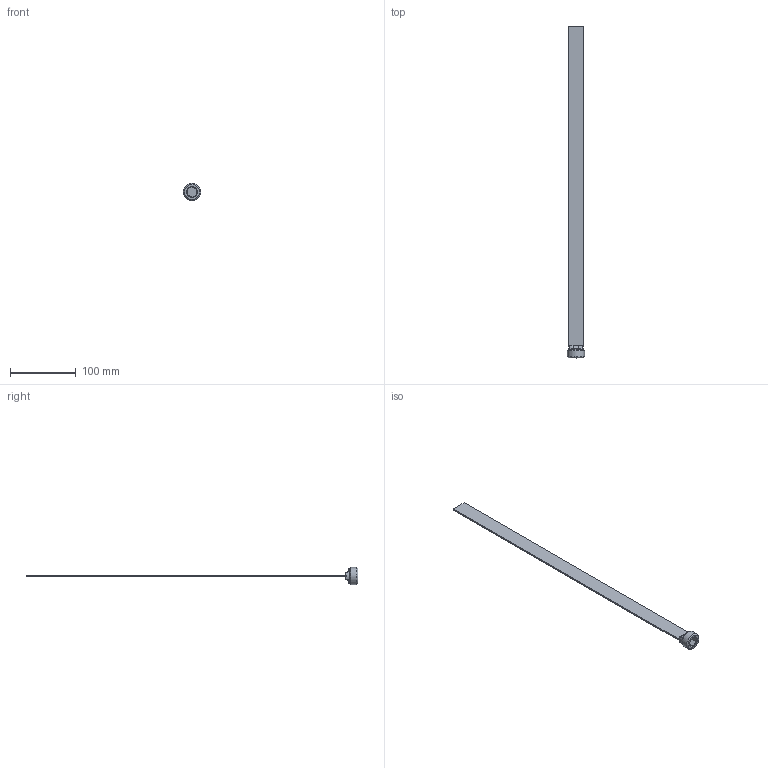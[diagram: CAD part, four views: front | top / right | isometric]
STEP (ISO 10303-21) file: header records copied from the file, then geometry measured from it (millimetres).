
FILE_DESCRIPTION(/* description */ (''),/* implementation_level */ '2;1');
FILE_NAME(/* name */ 'C:/Users/drich/Desktop/SB34X20BSP v1.step',/* time_stamp */ '2020-01-04T16:02:50-06:00',/* author */ (''),/* organization */ (''),/* preprocessor_version */ 'ST-DEVELOPER v18',/* originating_system */ 'Autodesk Translation Framework v8.12.0.6',/* authorisation */ '');
FILE_SCHEMA (('AUTOMOTIVE_DESIGN { 1 0 10303 214 3 1 1 }'));
Length unit declared in the file: inch
Products named in the file (1): SB34X20BSP
Bounding box: 26.3 x 506.35 x 26.3 mm (x, y, z)
Volume: 33401.8 mm3; surface area: 28159.1 mm2
Topology: 1 solids, 1 shells, 43 faces, 105 edges, 66 vertices
Faces by surface type: plane 22, cylinder 8, torus 6, bspline 4, cone 3
Full cylindrical faces by diameter (mm): 22.504 x1, 26.299 x1
Entity records: 1620 total; most frequent: CARTESIAN_POINT 608, ORIENTED_EDGE 210, DIRECTION 191, EDGE_CURVE 105, AXIS2_PLACEMENT_3D 72, VERTEX_POINT 66, LINE 47, VECTOR 47
